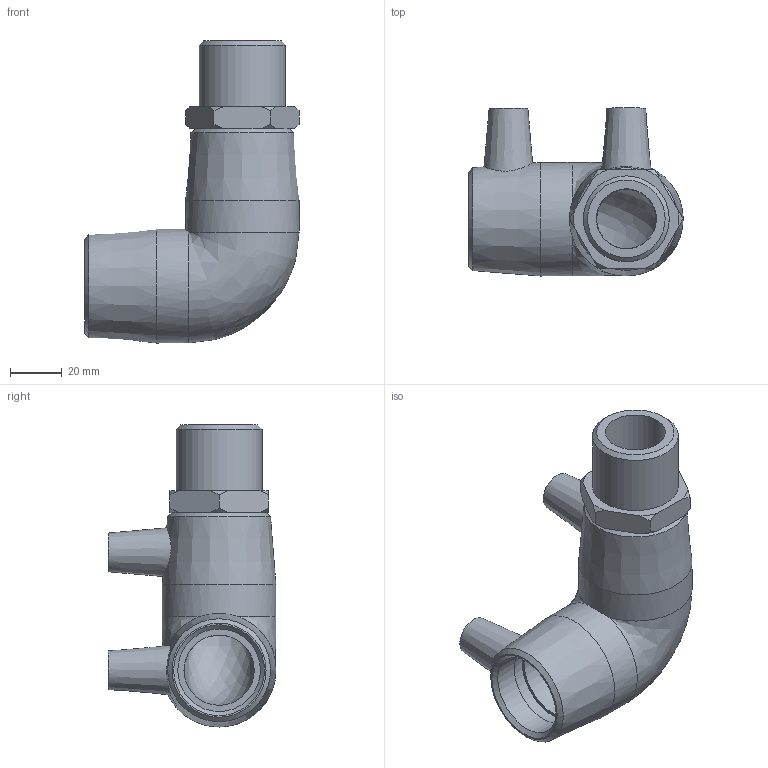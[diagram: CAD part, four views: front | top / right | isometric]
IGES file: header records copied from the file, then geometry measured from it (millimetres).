
Global section: file name: 492504032010.ipt; native system: Autodesk Inventor 2015; preprocessor: unknown; author: KIM; date: 20200202.122334; units: millimetre
Bounding box: 83 x 65 x 117 mm (x, y, z)
Volume: 122411.2 mm3; surface area: 38124.1 mm2
Topology: 1 solids, 2 shells, 59 faces, 143 edges, 96 vertices
Faces by surface type: plane 22, cone 19, revolution 10, cylinder 7, bspline 1
Full cylindrical faces by diameter (mm): 4 x2, 32 x2, 33.249 x1, 44 x2
